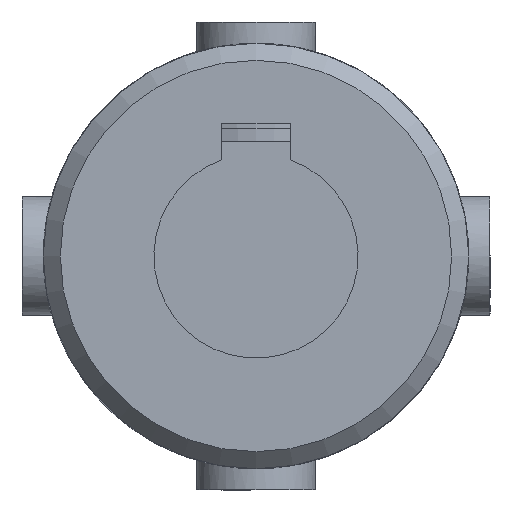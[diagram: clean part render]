
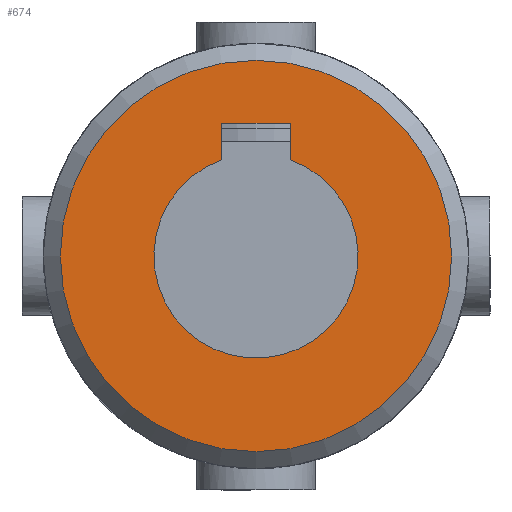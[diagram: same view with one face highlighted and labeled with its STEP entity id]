
A CAD part, left-side view. The second image highlights one B-rep face of the part: STEP entity #674.
In plain terms, the highlighted planar face has unit normal (-1, 0, 0) as drawn and (0, -1, 0) by its records, which use the part's own axes.
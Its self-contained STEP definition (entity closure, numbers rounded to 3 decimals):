
#81=LINE('',#1028,#114);
#86=LINE('',#1045,#119);
#87=LINE('',#1058,#120);
#114=VECTOR('',#844,2.143);
#119=VECTOR('',#855,2.143);
#120=VECTOR('',#858,4.);
#146=PLANE('',#735);
#169=FACE_BOUND('',#249,.T.);
#194=FACE_OUTER_BOUND('',#248,.T.);
#248=EDGE_LOOP('',(#541));
#249=EDGE_LOOP('',(#542,#543,#544,#545));
#282=CIRCLE('',#723,6.);
#287=CIRCLE('',#733,11.5);
#320=VERTEX_POINT('',#1017);
#321=VERTEX_POINT('',#1019);
#323=VERTEX_POINT('',#1027);
#329=VERTEX_POINT('',#1043);
#331=VERTEX_POINT('',#1064);
#391=EDGE_CURVE('',#321,#320,#282,.T.);
#394=EDGE_CURVE('',#323,#321,#81,.T.);
#402=EDGE_CURVE('',#320,#329,#86,.T.);
#404=EDGE_CURVE('',#329,#323,#87,.T.);
#407=EDGE_CURVE('',#331,#331,#287,.T.);
#541=ORIENTED_EDGE('',*,*,#407,.F.);
#542=ORIENTED_EDGE('',*,*,#402,.T.);
#543=ORIENTED_EDGE('',*,*,#404,.T.);
#544=ORIENTED_EDGE('',*,*,#394,.T.);
#545=ORIENTED_EDGE('',*,*,#391,.T.);
#674=ADVANCED_FACE('',(#194,#169),#146,.F.);
#723=AXIS2_PLACEMENT_3D('',#1020,#839,#840);
#733=AXIS2_PLACEMENT_3D('',#1065,#867,#868);
#735=AXIS2_PLACEMENT_3D('',#1233,#875,#876);
#839=DIRECTION('center_axis',(0.,1.,0.));
#840=DIRECTION('ref_axis',(0.333,0.,-0.943));
#844=DIRECTION('',(0.,0.,1.));
#855=DIRECTION('',(0.,0.,-1.));
#858=DIRECTION('',(-1.,0.,0.));
#867=DIRECTION('center_axis',(0.,1.,0.));
#868=DIRECTION('ref_axis',(1.,0.,0.));
#875=DIRECTION('center_axis',(0.,1.,0.));
#876=DIRECTION('ref_axis',(0.,0.,1.));
#1017=CARTESIAN_POINT('',(2.,-34.5,-5.657));
#1019=CARTESIAN_POINT('',(-2.,-34.5,-5.657));
#1020=CARTESIAN_POINT('Origin',(0.,-34.5,0.));
#1027=CARTESIAN_POINT('',(-2.,-34.5,-7.8));
#1028=CARTESIAN_POINT('',(-2.,-34.5,-3.9));
#1043=CARTESIAN_POINT('',(2.,-34.5,-7.8));
#1045=CARTESIAN_POINT('',(2.,-34.5,-2.828));
#1058=CARTESIAN_POINT('',(1.,-34.5,-7.8));
#1064=CARTESIAN_POINT('',(-11.5,-34.5,0.));
#1065=CARTESIAN_POINT('Origin',(0.,-34.5,0.));
#1233=CARTESIAN_POINT('Origin',(0.,-34.5,0.));
